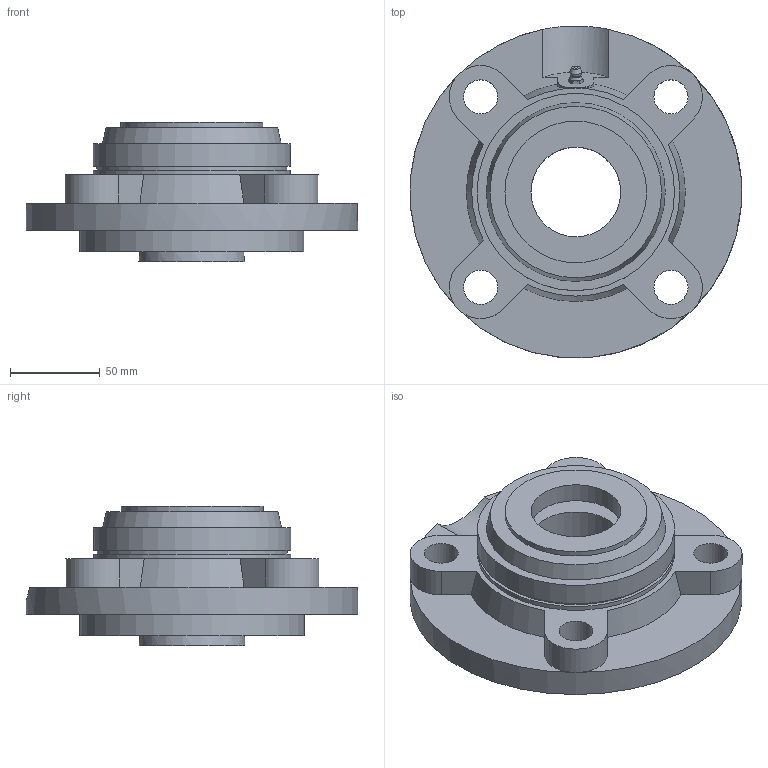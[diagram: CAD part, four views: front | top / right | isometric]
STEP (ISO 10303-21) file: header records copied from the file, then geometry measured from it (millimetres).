
FILE_DESCRIPTION((''),'2;1');
FILE_NAME('\\Ts-tgl068\j-cad-d-base\00.3DCADデータ作成フォルダ\02.フランジ形\UKFC200C(E)\UKFC211C+H.stp','2014-05-22T07:50:09',('btec_1106_2'),(''),'Autodesk Inventor 2012','Autodesk Inventor 2012','');
FILE_SCHEMA(('AUTOMOTIVE_DESIGN { 1 0 10303 214 1 1 1 1 }'));
Length unit declared in the file: millimetre
Products named in the file (5): UKFC200C+H; FC211C; UK211; GU1; 211CPA50
Assembly tree (4 placements, depth 2):
  UKFC200C+H
    FC211C
    UK211
    GU1
    211CPA50
Bounding box: 184.78 x 184.85 x 77.5 mm (x, y, z)
Volume: 635899.3 mm3; surface area: 159620.6 mm2
Topology: 4 solids, 4 shells, 248 faces, 647 edges, 423 vertices
Faces by surface type: plane 98, cone 75, cylinder 67, sphere 4, bspline 2, torus 2
Full cylindrical faces by diameter (mm): 5.359 x1, 6.35 x1, 19 x4, 50 x2, 70 x2, 79 x2, 104 x1, 106 x1, 108 x2, 110 x3, 125 x1, 185 x1
Entity records: 7530 total; most frequent: CARTESIAN_POINT 1693, ORIENTED_EDGE 1208, DIRECTION 1179, EDGE_CURVE 604, AXIS2_PLACEMENT_3D 480, VERTEX_POINT 410, EDGE_LOOP 313, FACE_OUTER_BOUND 248
